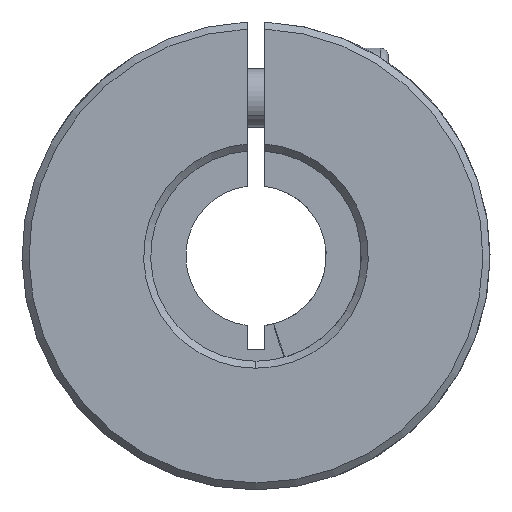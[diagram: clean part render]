
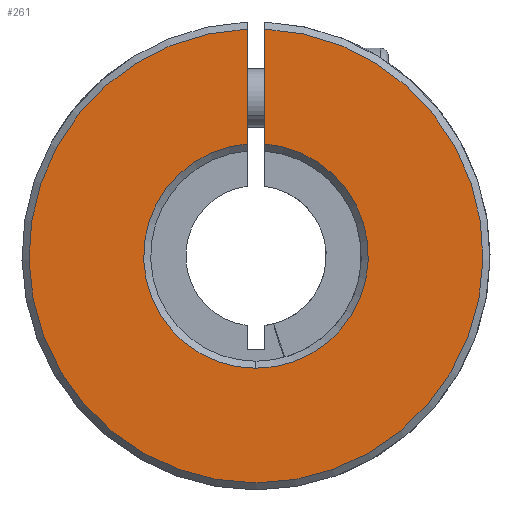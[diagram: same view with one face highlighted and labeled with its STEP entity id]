
A CAD part, front view. The second image highlights one B-rep face of the part: STEP entity #261.
In plain terms, the highlighted planar face has unit normal (0, -1, 0).
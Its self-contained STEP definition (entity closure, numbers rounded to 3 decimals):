
#236 = DIRECTION ( 'NONE',  ( 0., 0., 1. ) ) ;
#261 = ADVANCED_FACE ( 'NONE', ( #2401 ), #4239, .F. ) ;
#274 = DIRECTION ( 'NONE',  ( 0., 0., -1. ) ) ;
#448 = CARTESIAN_POINT ( 'NONE',  ( 0., -25., 0. ) ) ;
#479 = VECTOR ( 'NONE', #274, 1000. ) ;
#517 = DIRECTION ( 'NONE',  ( 0., 0., 1. ) ) ;
#644 = LINE ( 'NONE', #3761, #4511 ) ;
#743 = EDGE_CURVE ( 'NONE', #4567, #2162, #3576, .T. ) ;
#760 = CIRCLE ( 'NONE', #4146, 19.4 ) ;
#906 = AXIS2_PLACEMENT_3D ( 'NONE', #448, #3256, #4144 ) ;
#1036 = EDGE_CURVE ( 'NONE', #5709, #5114, #760, .T. ) ;
#1063 = VERTEX_POINT ( 'NONE', #3201 ) ;
#1066 = CIRCLE ( 'NONE', #2216, 9.6 ) ;
#1104 = DIRECTION ( 'NONE',  ( 0., 1., 0. ) ) ;
#1149 = CARTESIAN_POINT ( 'NONE',  ( 0.75, -25., -8. ) ) ;
#1172 = CARTESIAN_POINT ( 'NONE',  ( 0., -25., 0. ) ) ;
#1461 = CARTESIAN_POINT ( 'NONE',  ( 0.75, -25., 9.571 ) ) ;
#1518 = EDGE_CURVE ( 'NONE', #5114, #4567, #5387, .T. ) ;
#1594 = ORIENTED_EDGE ( 'NONE', *, *, #5704, .T. ) ;
#1619 = EDGE_LOOP ( 'NONE', ( #5960, #4991, #5028, #1594, #5539 ) ) ;
#2097 = DIRECTION ( 'NONE',  ( 0., 0., 1. ) ) ;
#2162 = VERTEX_POINT ( 'NONE', #2907 ) ;
#2216 = AXIS2_PLACEMENT_3D ( 'NONE', #5260, #1104, #4908 ) ;
#2235 = EDGE_CURVE ( 'NONE', #2162, #1063, #1066, .T. ) ;
#2401 = FACE_OUTER_BOUND ( 'NONE', #1619, .T. ) ;
#2572 = DIRECTION ( 'NONE',  ( 0., -1., 0. ) ) ;
#2907 = CARTESIAN_POINT ( 'NONE',  ( 0., -25., -9.6 ) ) ;
#3038 = CARTESIAN_POINT ( 'NONE',  ( 0., -25., 0. ) ) ;
#3201 = CARTESIAN_POINT ( 'NONE',  ( -0.75, -25., 9.571 ) ) ;
#3256 = DIRECTION ( 'NONE',  ( 0., 1., 0. ) ) ;
#3429 = DIRECTION ( 'NONE',  ( 0., 1., 0. ) ) ;
#3576 = CIRCLE ( 'NONE', #4930, 9.6 ) ;
#3761 = CARTESIAN_POINT ( 'NONE',  ( -0.75, -25., -8. ) ) ;
#4144 = DIRECTION ( 'NONE',  ( 0., 0., 1. ) ) ;
#4146 = AXIS2_PLACEMENT_3D ( 'NONE', #3038, #2572, #2097 ) ;
#4239 = PLANE ( 'NONE',  #906 ) ;
#4511 = VECTOR ( 'NONE', #517, 1000. ) ;
#4567 = VERTEX_POINT ( 'NONE', #1461 ) ;
#4908 = DIRECTION ( 'NONE',  ( 0., 0., 1. ) ) ;
#4930 = AXIS2_PLACEMENT_3D ( 'NONE', #1172, #3429, #236 ) ;
#4991 = ORIENTED_EDGE ( 'NONE', *, *, #743, .T. ) ;
#5028 = ORIENTED_EDGE ( 'NONE', *, *, #2235, .T. ) ;
#5114 = VERTEX_POINT ( 'NONE', #5375 ) ;
#5260 = CARTESIAN_POINT ( 'NONE',  ( 0., -25., 0. ) ) ;
#5375 = CARTESIAN_POINT ( 'NONE',  ( 0.75, -25., 19.385 ) ) ;
#5387 = LINE ( 'NONE', #1149, #479 ) ;
#5539 = ORIENTED_EDGE ( 'NONE', *, *, #1036, .T. ) ;
#5588 = CARTESIAN_POINT ( 'NONE',  ( -0.75, -25., 19.385 ) ) ;
#5704 = EDGE_CURVE ( 'NONE', #1063, #5709, #644, .T. ) ;
#5709 = VERTEX_POINT ( 'NONE', #5588 ) ;
#5960 = ORIENTED_EDGE ( 'NONE', *, *, #1518, .T. ) ;
